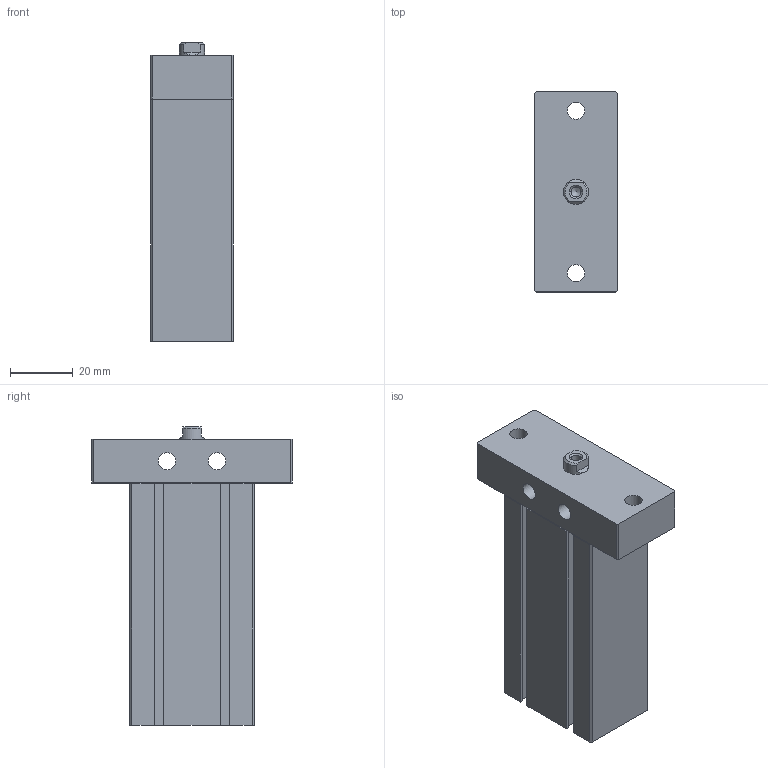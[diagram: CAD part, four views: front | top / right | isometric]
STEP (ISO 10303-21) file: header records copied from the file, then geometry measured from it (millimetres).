
FILE_DESCRIPTION((''),'2;1');
FILE_NAME('J:\3D電子目錄\氣缸\ND\ND\ND20-F\ND20x50-F.stp','2008-03-12T14:06:40',('66-2f-008'),(''),'Autodesk Inventor 11','Autodesk Inventor 11','');
FILE_SCHEMA(('AUTOMOTIVE_DESIGN { 1 0 10303 214 1 1 1 1 }'));
Length unit declared in the file: millimetre
Products named in the file (1): ND20-F
Bounding box: 26.4 x 64 x 95.5 mm (x, y, z)
Volume: 94948.6 mm3; surface area: 22719.2 mm2
Topology: 2 solids, 2 shells, 112 faces, 300 edges, 193 vertices
Faces by surface type: plane 75, bspline 16, cylinder 12, cone 8, torus 1
Full cylindrical faces by diameter (mm): 1.5 x2, 5.5 x2, 13 x1, 21 x1
Entity records: 3478 total; most frequent: CARTESIAN_POINT 793, ORIENTED_EDGE 538, DIRECTION 514, EDGE_CURVE 269, VECTOR 210, LINE 210, VERTEX_POINT 187, EDGE_LOOP 154
